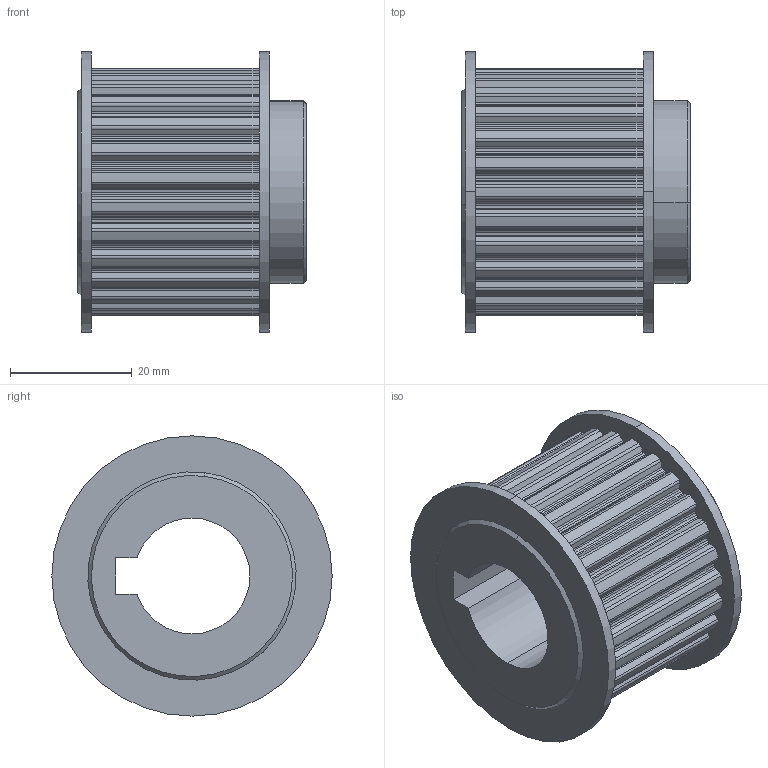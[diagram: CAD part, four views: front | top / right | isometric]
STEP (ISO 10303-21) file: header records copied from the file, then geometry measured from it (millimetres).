
FILE_DESCRIPTION (( 'STEP AP214' ), '1' );
FILE_NAME ('3.2008 Hammashihnapyörä 25T5_26D19K6_0.STEP', '2026-02-06T12:26:50', ( '' ), ( '' ), 'SwSTEP 2.0', 'SolidWorks 2025', '' );
FILE_SCHEMA (( 'AUTOMOTIVE_DESIGN' ));
Length unit declared in the file: millimetre
Products named in the file (1): 3.2008 Hammashihnapyörä 25T5_26D19K6_0
Bounding box: 37.5 x 46 x 46 mm (x, y, z)
Volume: 32547.5 mm3; surface area: 11663.9 mm2
Topology: 1 solids, 1 shells, 434 faces, 1223 edges, 813 vertices
Faces by surface type: plane 208, cylinder 147, bspline 71, cone 8
Entity records: 18267 total; most frequent: CARTESIAN_POINT 7253, ORIENTED_EDGE 2446, DIRECTION 2082, EDGE_CURVE 1223, VERTEX_POINT 813, VECTOR 766, LINE 766, AXIS2_PLACEMENT_3D 658
